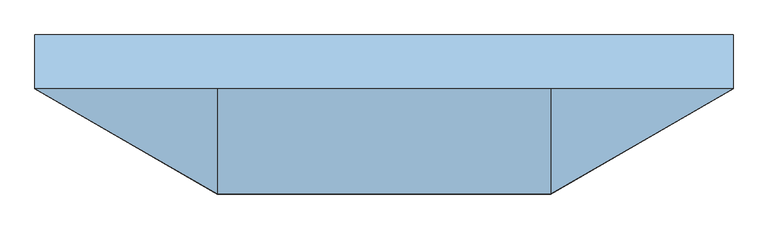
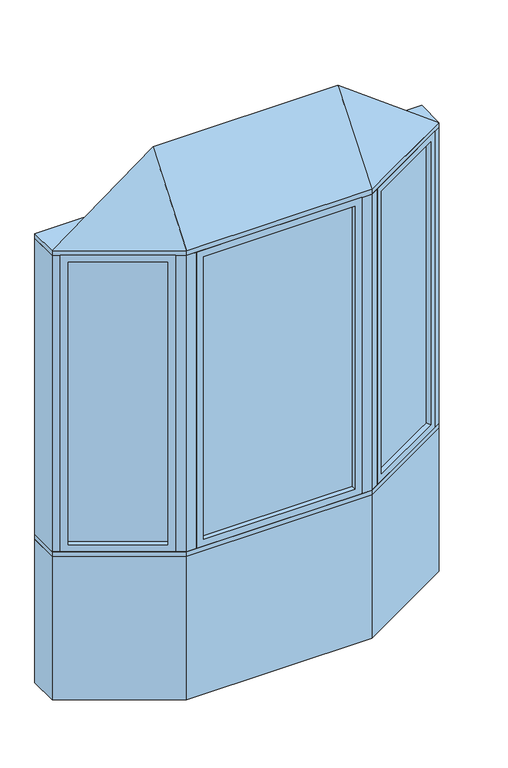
"""IFC4 building model written with IfcOpenShell, lengths in millimetres: window geometry, Pollard_Windows_Tudor Casement Bows and Bays : AML-BAY 30 AFR0516-10-500."""

from ifc_helpers import new_model, si_unit, frame, origin, origin_with_axes, place, context, project, spatial, polyline, outline, extrude, faceted_brep, source, transform, mapped, element, save


def window_23af1913(model_context):
    return source(origin(), model_context, "Body", "SolidModel", [
        extrude(outline(polyline([(926.612102, -82.0482469), (523.7320119, -314.6511754), (521.1920119, -310.2517664), (924.072102, -77.6488379), (926.612102, -82.0482469)])), frame((0.0, 0.0, 823.1628), z_axis=(0.0, 0.0, 1.0), x_axis=(1.0, 0.0, 0.0)), (0.0, 0.0, 1.0), 1553.6704),
        faceted_brep([(915.6135794, -88.3982469, 835.8628), (928.3135794, -110.3952922, 835.8628), (928.3135794, -110.3952922, 2364.1332), (915.6135794, -88.3982469, 2364.1332), (924.072102, -77.6488379, 823.1628), (926.612102, -82.0482469, 823.1628), (926.612102, -82.0482469, 2376.8332), (924.072102, -77.6488379, 2376.8332), (900.3735794, -62.0017926, 835.8628), (913.0735794, -83.9988379, 835.8628), (913.0735794, -83.9988379, 2364.1332), (900.3735794, -62.0017926, 2364.1332), (959.3734073, -92.4628922, 799.998), (931.4334073, -44.0693926, 799.998), (931.4334073, -44.0693926, 2399.998), (959.3734073, -92.4628922, 2399.998), (547.4305346, -330.2982207, 2364.1332), (534.7305346, -308.3011754, 2364.1332), (523.7320119, -314.6511754, 2376.8332), (521.1920119, -310.2517664, 2376.8332), (532.1905346, -303.9017664, 2364.1332), (519.4905346, -281.9047211, 2364.1332), (488.4307067, -299.8371211, 2399.998), (516.3707067, -348.2306207, 2399.998), (547.4305346, -330.2982207, 835.8628), (534.7305346, -308.3011754, 835.8628), (523.7320119, -314.6511754, 823.1628), (521.1920119, -310.2517664, 823.1628), (532.1905346, -303.9017664, 835.8628), (519.4905346, -281.9047211, 835.8628), (488.4307067, -299.8371211, 799.998), (516.3707067, -348.2306207, 799.998)], [[[0, 1, 2, 3]], [[4, 5, 6, 7]], [[8, 9, 10, 11]], [[12, 13, 14, 15]], [[3, 2, 16, 17]], [[7, 6, 18, 19]], [[11, 10, 20, 21]], [[15, 14, 22, 23]], [[17, 16, 24, 25]], [[19, 18, 26, 27]], [[21, 20, 28, 29]], [[23, 22, 30, 31]], [[25, 24, 1, 0]], [[5, 26, 18, 6], [3, 17, 25, 0]], [[27, 26, 5, 4]], [[7, 19, 27, 4], [9, 28, 20, 10]], [[29, 28, 9, 8]], [[13, 30, 22, 14], [11, 21, 29, 8]], [[31, 30, 13, 12]], [[15, 23, 31, 12], [1, 24, 16, 2]]]),
        extrude(outline(polyline([(-523.7320119, -314.6511754), (-926.612102, -82.0482469), (-924.072102, -77.6488379), (-521.1920119, -310.2517664), (-523.7320119, -314.6511754)])), frame((0.0, 0.0, 823.1628), z_axis=(0.0, 0.0, 1.0), x_axis=(1.0, 0.0, 0.0)), (0.0, 0.0, 1.0), 1553.6704),
        faceted_brep([(-532.1905346, -303.9017664, 2364.1332), (-519.4905346, -281.9047211, 2364.1332), (-519.4905346, -281.9047211, 835.8628), (-532.1905346, -303.9017664, 835.8628), (-523.7320119, -314.6511754, 2376.8332), (-521.1920119, -310.2517664, 2376.8332), (-521.1920119, -310.2517664, 823.1628), (-523.7320119, -314.6511754, 823.1628), (-547.4305346, -330.2982207, 2364.1332), (-534.7305346, -308.3011754, 2364.1332), (-534.7305346, -308.3011754, 835.8628), (-547.4305346, -330.2982207, 835.8628), (-488.4307067, -299.8371211, 2399.998), (-516.3707067, -348.2306207, 2399.998), (-516.3707067, -348.2306207, 799.998), (-488.4307067, -299.8371211, 799.998), (-900.3735794, -62.0017926, 835.8628), (-913.0735794, -83.9988379, 835.8628), (-924.072102, -77.6488379, 823.1628), (-926.612102, -82.0482469, 823.1628), (-915.6135794, -88.3982469, 835.8628), (-928.3135794, -110.3952922, 835.8628), (-959.3734073, -92.4628922, 799.998), (-931.4334073, -44.0693926, 799.998), (-900.3735794, -62.0017926, 2364.1332), (-913.0735794, -83.9988379, 2364.1332), (-924.072102, -77.6488379, 2376.8332), (-926.612102, -82.0482469, 2376.8332), (-915.6135794, -88.3982469, 2364.1332), (-928.3135794, -110.3952922, 2364.1332), (-959.3734073, -92.4628922, 2399.998), (-931.4334073, -44.0693926, 2399.998)], [[[0, 1, 2, 3]], [[4, 5, 6, 7]], [[8, 9, 10, 11]], [[12, 13, 14, 15]], [[3, 2, 16, 17]], [[7, 6, 18, 19]], [[11, 10, 20, 21]], [[15, 14, 22, 23]], [[17, 16, 24, 25]], [[19, 18, 26, 27]], [[21, 20, 28, 29]], [[23, 22, 30, 31]], [[15, 23, 31, 12], [1, 24, 16, 2]], [[25, 24, 1, 0]], [[5, 26, 18, 6], [3, 17, 25, 0]], [[27, 26, 5, 4]], [[7, 19, 27, 4], [9, 28, 20, 10]], [[29, 28, 9, 8]], [[13, 30, 22, 14], [11, 21, 29, 8]], [[31, 30, 13, 12]]]),
        extrude(outline(polyline([(399.9046365, -347.8306207), (-399.9046365, -347.8306207), (-399.9046365, -342.7506207), (399.9046365, -342.7506207), (399.9046365, -347.8306207)])), frame((0.0, 0.0, 823.1628), z_axis=(0.0, 0.0, 1.0), x_axis=(1.0, 0.0, 0.0)), (0.0, 0.0, 1.0), 1553.6704),
        faceted_brep([(387.2046365, -347.8306207, 835.8628), (387.2046365, -373.2306207, 835.8628), (387.2046365, -373.2306207, 2364.1332), (387.2046365, -347.8306207, 2364.1332), (399.9046365, -342.7506207, 823.1628), (399.9046365, -347.8306207, 823.1628), (399.9046365, -347.8306207, 2376.8332), (399.9046365, -342.7506207, 2376.8332), (387.2046365, -317.3506207, 835.8628), (387.2046365, -342.7506207, 835.8628), (387.2046365, -342.7506207, 2364.1332), (387.2046365, -317.3506207, 2364.1332), (423.0694365, -373.2306207, 799.998), (423.0694365, -317.3506207, 799.998), (423.0694365, -317.3506207, 2399.998), (423.0694365, -373.2306207, 2399.998), (-387.2046365, -373.2306207, 2364.1332), (-387.2046365, -347.8306207, 2364.1332), (-399.9046365, -347.8306207, 2376.8332), (-399.9046365, -342.7506207, 2376.8332), (-387.2046365, -342.7506207, 2364.1332), (-387.2046365, -317.3506207, 2364.1332), (-423.0694365, -317.3506207, 2399.998), (-423.0694365, -373.2306207, 2399.998), (-387.2046365, -373.2306207, 835.8628), (-387.2046365, -347.8306207, 835.8628), (-399.9046365, -347.8306207, 823.1628), (-399.9046365, -342.7506207, 823.1628), (-387.2046365, -342.7506207, 835.8628), (-387.2046365, -317.3506207, 835.8628), (-423.0694365, -317.3506207, 799.998), (-423.0694365, -373.2306207, 799.998)], [[[0, 1, 2, 3]], [[4, 5, 6, 7]], [[8, 9, 10, 11]], [[12, 13, 14, 15]], [[3, 2, 16, 17]], [[7, 6, 18, 19]], [[11, 10, 20, 21]], [[15, 14, 22, 23]], [[17, 16, 24, 25]], [[19, 18, 26, 27]], [[21, 20, 28, 29]], [[23, 22, 30, 31]], [[15, 23, 31, 12], [1, 24, 16, 2]], [[25, 24, 1, 0]], [[5, 26, 18, 6], [3, 17, 25, 0]], [[27, 26, 5, 4]], [[7, 19, 27, 4], [9, 28, 20, 10]], [[29, 28, 9, 8]], [[13, 30, 22, 14], [11, 21, 29, 8]], [[31, 30, 13, 12]]]),
        faceted_brep([(990.0, -74.7806207, 2425.398), (473.0694365, -373.2306207, 2425.398), (-473.0694365, -373.2306207, 2425.398), (-990.0, -74.7806207, 2425.398), (-473.0694365, -74.7806207, 2806.398), (473.0694365, -74.7806207, 2806.398)], [[[0, 1, 2, 3]], [[3, 2, 4]], [[2, 1, 5, 4]], [[1, 0, 5]], [[0, 3, 4, 5]]]),
        extrude(outline(polyline([(-990.0, 77.6193793), (990.0, 77.6193793), (990.0, -74.7806207), (473.0694365, -373.2306207), (-473.0694365, -373.2306207), (-990.0, -74.7806207), (-990.0, 77.6193793)])), frame((0.0, 0.0, 2399.998), z_axis=(0.0, 0.0, 1.0), x_axis=(1.0, 0.0, 0.0)), (0.0, 0.0, 1.0), 25.4),
        extrude(outline(polyline([(-990.0, -74.7806207), (-990.0, 77.6193793), (-949.1645431, 77.6193793), (-949.1645431, -74.7806207), (-959.3734073, -92.4628922), (-990.0, -74.7806207)])), frame((0.0, 0.0, 799.998), z_axis=(0.0, 0.0, 1.0), x_axis=(1.0, 0.0, 0.0)), (0.0, 0.0, 1.0), 1600.0),
        extrude(outline(polyline([(990.0, 77.6193793), (990.0, -74.7806207), (959.3734073, -92.4628922), (949.1645431, -74.7806207), (949.1645431, 77.6193793), (990.0, 77.6193793)])), frame((0.0, 0.0, 799.998), z_axis=(0.0, 0.0, 1.0), x_axis=(1.0, 0.0, 0.0)), (0.0, 0.0, 1.0), 1600.0),
        extrude(outline(polyline([(473.0694365, -373.2306207), (423.0694365, -373.2306207), (423.0694365, -323.2306207), (459.6719769, -323.2306207), (491.3707067, -304.9293505), (516.3707067, -348.2306207), (473.0694365, -373.2306207)])), frame((0.0, 0.0, 799.998), z_axis=(0.0, 0.0, 1.0), x_axis=(1.0, 0.0, 0.0)), (0.0, 0.0, 1.0), 1600.0),
        extrude(outline(polyline([(-473.0694365, -373.2306207), (-516.3707067, -348.2306207), (-491.3707067, -304.9293505), (-459.6719769, -323.2306207), (-423.0694365, -323.2306207), (-423.0694365, -373.2306207), (-473.0694365, -373.2306207)])), frame((0.0, 0.0, 799.998), z_axis=(0.0, 0.0, 1.0), x_axis=(1.0, 0.0, 0.0)), (0.0, 0.0, 1.0), 1600.0),
        extrude(outline(polyline([(-473.0694365, -373.2306207), (-990.0, -74.7806207), (-990.0, 77.6193793), (-949.1645431, 77.6193793), (-432.2339796, -220.8306207), (432.2339796, -220.8306207), (949.1645431, 77.6193793), (990.0, 77.6193793), (990.0, -74.7806207), (473.0694365, -373.2306207), (-473.0694365, -373.2306207)])), frame((0.0, 0.0, 774.598), z_axis=(0.0, 0.0, 1.0), x_axis=(1.0, 0.0, 0.0)), (0.0, 0.0, 1.0), 25.4),
        extrude(outline(polyline([(-990.0, -74.7806207), (-990.0, 77.6193793), (-949.1645431, 77.6193793), (-432.2339796, -220.8306207), (432.2339796, -220.8306207), (949.1645431, 77.6193793), (990.0, 77.6193793), (990.0, -74.7806207), (473.0694365, -373.2306207), (-473.0694365, -373.2306207), (-990.0, -74.7806207)])), origin_with_axes(), (0.0, 0.0, 1.0), 774.598),
    ])


if __name__ == "__main__":
    model = new_model("IFC4")
    model_context = context("Model", 3, world=origin())
    ifc_project = project(units=[si_unit("LENGTHUNIT", "METRE", prefix="MILLI")], contexts=[model_context])
    site = spatial("IfcSite", under=ifc_project)
    building = spatial("IfcBuilding", under=site)
    placement = place(None, origin())
    window_shape = window_23af1913(model_context)
    element("IfcWindow", 1, ObjectType="Pollard_Windows_Tudor Casement Bows and Bays : AML-BAY 30 AFR0516-10-500", at=placement, inside=building, context=model_context, shape_type="MappedRepresentation", body=[
        mapped(window_shape, transform((0.0, 0.0, 0.0), x_axis=(1.0, 0.0, 0.0), y_axis=(0.0, 1.0, 0.0), z_axis=(0.0, 0.0, 1.0))),
    ])
    save(model, "model.ifc")
